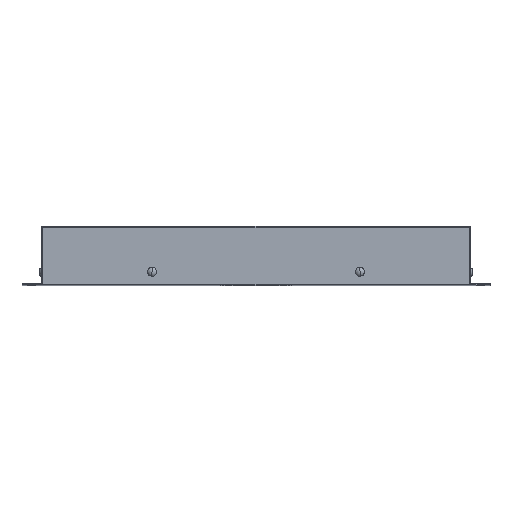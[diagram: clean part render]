
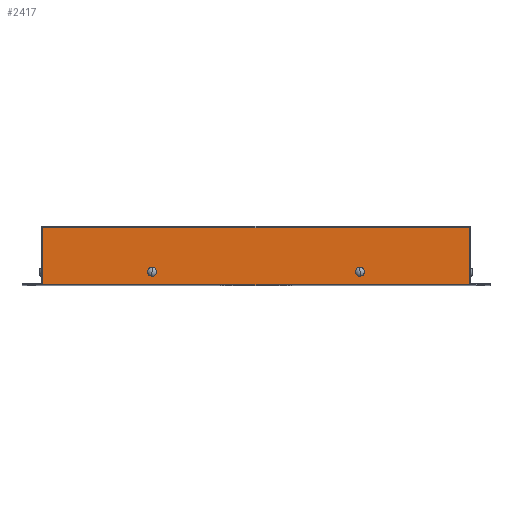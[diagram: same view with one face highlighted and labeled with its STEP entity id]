
A CAD part, top view. The second image highlights one B-rep face of the part: STEP entity #2417.
In plain terms, the highlighted planar face has unit normal (0, 0, 1).
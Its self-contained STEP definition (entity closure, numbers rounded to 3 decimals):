
#97 = VERTEX_POINT ( 'NONE', #2426 ) ;
#119 = FACE_BOUND ( 'NONE', #4506, .T. ) ;
#132 = EDGE_CURVE ( 'NONE', #2317, #5185, #2591, .T. ) ;
#145 = FACE_BOUND ( 'NONE', #3150, .T. ) ;
#148 = CARTESIAN_POINT ( 'NONE',  ( -165., 42.5, 215. ) ) ;
#178 = AXIS2_PLACEMENT_3D ( 'NONE', #3890, #605, #1433 ) ;
#197 = VECTOR ( 'NONE', #1711, 1000. ) ;
#331 = EDGE_CURVE ( 'NONE', #2364, #3771, #3871, .T. ) ;
#397 = ORIENTED_EDGE ( 'NONE', *, *, #1296, .F. ) ;
#521 = DIRECTION ( 'NONE',  ( -0.976, 0.219, 0. ) ) ;
#551 = EDGE_CURVE ( 'NONE', #2317, #2364, #1315, .T. ) ;
#564 = EDGE_LOOP ( 'NONE', ( #1462, #2578, #2757, #1846 ) ) ;
#605 = DIRECTION ( 'NONE',  ( 0., 0., 1. ) ) ;
#672 = CARTESIAN_POINT ( 'NONE',  ( -164., 585.533, 215. ) ) ;
#985 = AXIS2_PLACEMENT_3D ( 'NONE', #5259, #5319, #1137 ) ;
#997 = AXIS2_PLACEMENT_3D ( 'NONE', #2145, #4236, #521 ) ;
#1008 = CARTESIAN_POINT ( 'NONE',  ( -164., 42.5, 215. ) ) ;
#1021 = EDGE_CURVE ( 'NONE', #3446, #3931, #3685, .T. ) ;
#1137 = DIRECTION ( 'NONE',  ( -0.976, -0.219, 0. ) ) ;
#1296 = EDGE_CURVE ( 'NONE', #5239, #97, #4197, .T. ) ;
#1315 = LINE ( 'NONE', #2587, #4361 ) ;
#1371 = DIRECTION ( 'NONE',  ( 0., 0., 1. ) ) ;
#1433 = DIRECTION ( 'NONE',  ( 1., 0., 0. ) ) ;
#1462 = ORIENTED_EDGE ( 'NONE', *, *, #331, .T. ) ;
#1707 = DIRECTION ( 'NONE',  ( 0., 1., 0. ) ) ;
#1711 = DIRECTION ( 'NONE',  ( -1., 0., 0. ) ) ;
#1754 = CARTESIAN_POINT ( 'NONE',  ( -164., -1.5, 215. ) ) ;
#1810 = LINE ( 'NONE', #672, #2967 ) ;
#1846 = ORIENTED_EDGE ( 'NONE', *, *, #551, .T. ) ;
#1876 = ORIENTED_EDGE ( 'NONE', *, *, #2802, .F. ) ;
#2074 = CARTESIAN_POINT ( 'NONE',  ( 83.367, 9.254, 215. ) ) ;
#2104 = CIRCLE ( 'NONE', #985, 3.45 ) ;
#2126 = DIRECTION ( 'NONE',  ( -0.976, 0.219, 0. ) ) ;
#2145 = CARTESIAN_POINT ( 'NONE',  ( -80., 8.5, 215. ) ) ;
#2176 = PLANE ( 'NONE',  #178 ) ;
#2227 = CARTESIAN_POINT ( 'NONE',  ( -80., 8.5, 215. ) ) ;
#2317 = VERTEX_POINT ( 'NONE', #4493 ) ;
#2353 = AXIS2_PLACEMENT_3D ( 'NONE', #2227, #1371, #2126 ) ;
#2364 = VERTEX_POINT ( 'NONE', #3480 ) ;
#2417 = ADVANCED_FACE ( 'NONE', ( #119, #145, #2562 ), #2176, .T. ) ;
#2426 = CARTESIAN_POINT ( 'NONE',  ( 76.633, 7.746, 215. ) ) ;
#2463 = CARTESIAN_POINT ( 'NONE',  ( -76.633, 7.746, 215. ) ) ;
#2523 = CIRCLE ( 'NONE', #2353, 3.45 ) ;
#2547 = AXIS2_PLACEMENT_3D ( 'NONE', #4143, #4051, #3556 ) ;
#2562 = FACE_OUTER_BOUND ( 'NONE', #564, .T. ) ;
#2578 = ORIENTED_EDGE ( 'NONE', *, *, #3675, .T. ) ;
#2587 = CARTESIAN_POINT ( 'NONE',  ( 164., 585.533, 215. ) ) ;
#2591 = LINE ( 'NONE', #2966, #197 ) ;
#2757 = ORIENTED_EDGE ( 'NONE', *, *, #132, .F. ) ;
#2802 = EDGE_CURVE ( 'NONE', #3931, #3446, #2523, .T. ) ;
#2966 = CARTESIAN_POINT ( 'NONE',  ( -165., -1.5, 215. ) ) ;
#2967 = VECTOR ( 'NONE', #4705, 1000. ) ;
#3041 = DIRECTION ( 'NONE',  ( -1., 0., 0. ) ) ;
#3150 = EDGE_LOOP ( 'NONE', ( #4263, #397 ) ) ;
#3446 = VERTEX_POINT ( 'NONE', #2463 ) ;
#3480 = CARTESIAN_POINT ( 'NONE',  ( 164., 42.5, 215. ) ) ;
#3503 = ORIENTED_EDGE ( 'NONE', *, *, #1021, .F. ) ;
#3556 = DIRECTION ( 'NONE',  ( -0.976, -0.219, 0. ) ) ;
#3675 = EDGE_CURVE ( 'NONE', #3771, #5185, #1810, .T. ) ;
#3685 = CIRCLE ( 'NONE', #997, 3.45 ) ;
#3771 = VERTEX_POINT ( 'NONE', #1008 ) ;
#3871 = LINE ( 'NONE', #148, #4017 ) ;
#3890 = CARTESIAN_POINT ( 'NONE',  ( -165., 585.533, 215. ) ) ;
#3931 = VERTEX_POINT ( 'NONE', #4158 ) ;
#4017 = VECTOR ( 'NONE', #3041, 1000. ) ;
#4051 = DIRECTION ( 'NONE',  ( 0., 0., 1. ) ) ;
#4143 = CARTESIAN_POINT ( 'NONE',  ( 80., 8.5, 215. ) ) ;
#4158 = CARTESIAN_POINT ( 'NONE',  ( -83.367, 9.254, 215. ) ) ;
#4197 = CIRCLE ( 'NONE', #2547, 3.45 ) ;
#4236 = DIRECTION ( 'NONE',  ( 0., 0., 1. ) ) ;
#4263 = ORIENTED_EDGE ( 'NONE', *, *, #5065, .F. ) ;
#4361 = VECTOR ( 'NONE', #1707, 1000. ) ;
#4493 = CARTESIAN_POINT ( 'NONE',  ( 164., -1.5, 215. ) ) ;
#4506 = EDGE_LOOP ( 'NONE', ( #1876, #3503 ) ) ;
#4705 = DIRECTION ( 'NONE',  ( 0., -1., 0. ) ) ;
#5065 = EDGE_CURVE ( 'NONE', #97, #5239, #2104, .T. ) ;
#5185 = VERTEX_POINT ( 'NONE', #1754 ) ;
#5239 = VERTEX_POINT ( 'NONE', #2074 ) ;
#5259 = CARTESIAN_POINT ( 'NONE',  ( 80., 8.5, 215. ) ) ;
#5319 = DIRECTION ( 'NONE',  ( 0., 0., 1. ) ) ;
